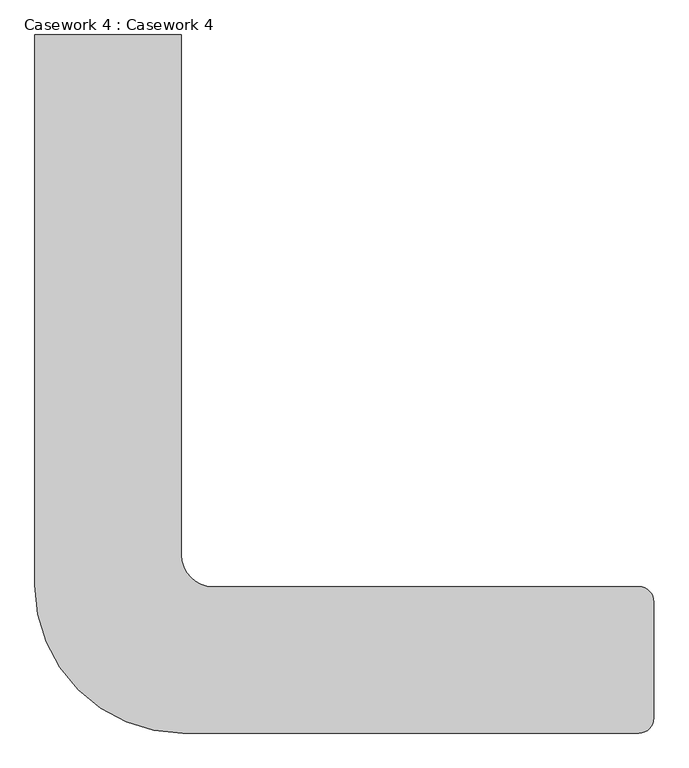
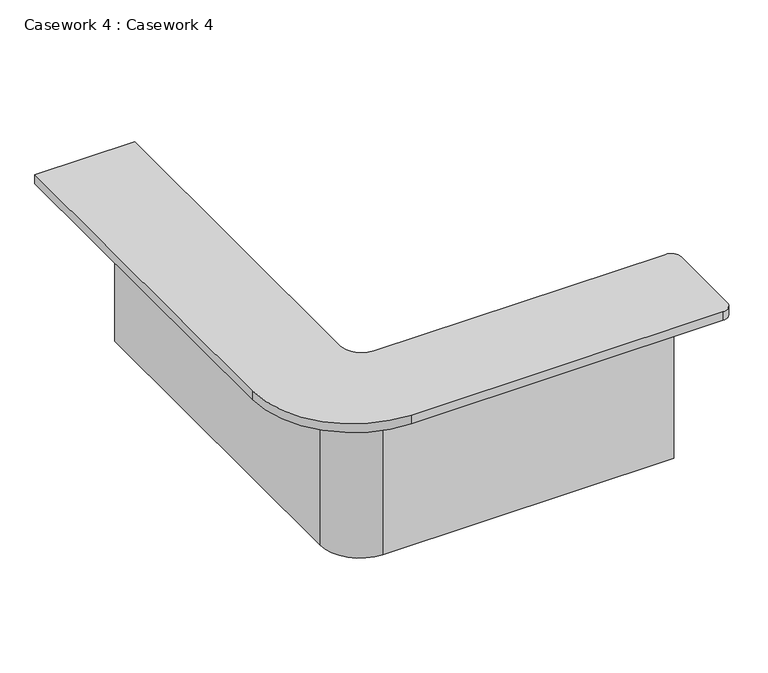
"""IFC4 building model written with IfcOpenShell, lengths in millimetres: furniture geometry, Casework 4 : Casework 4."""

from ifc_helpers import new_model, si_unit, point, frame, frame_2d, origin, place, context, project, spatial, polyline, circle_curve, trimmed, segment, composite_curve, outline, extrude, source, transform, mapped, element, save


def casework_4_casework_4_5319d1b7(model_context):
    return source(origin(), model_context, "Body", "SweptSolid", [
        extrude(outline(composite_curve([segment(polyline([(3468.5234079, 8836.6620874), (3468.5234079, 6882.973476)]), True, "CONTINUOUS"), segment(trimmed(circle_curve(frame_2d((3588.5234079, 6882.973476)), 120.0), [point((3468.5234079, 6882.973476))], [point((3588.5234079, 6762.973476))], True, "CARTESIAN"), True, "CONTINUOUS"), segment(polyline([(3588.5234079, 6762.973476), (5188.365661, 6762.973476), (5188.365661, 6662.973476), (3588.5234079, 6662.973476)]), True, "CONTINUOUS"), segment(trimmed(circle_curve(frame_2d((3588.5234079, 6882.973476)), 220.0), [point((3588.5234079, 6662.973476))], [point((3368.5234079, 6882.973476))], False, "CARTESIAN"), True, "CONTINUOUS"), segment(polyline([(3368.5234079, 6882.973476), (3368.5234079, 8836.6620874), (3468.5234079, 8836.6620874)]), True, "CONTINUOUS")], self_intersect=False)), frame((0.0, 0.0, 6600.0), z_axis=(0.0, 0.0, 1.0), x_axis=(1.0, 0.0, 0.0)), (0.0, 0.0, 1.0), 1050.0),
        extrude(outline(composite_curve([segment(polyline([(2943.5234079, 8861.6620874), (3493.5234079, 8861.6620874), (3493.5234079, 6907.973476)]), True, "CONTINUOUS"), segment(trimmed(circle_curve(frame_2d((3613.5234079, 6907.973476)), 120.0), [point((3493.5234079, 6907.973476))], [point((3613.5234079, 6787.973476))], True, "CARTESIAN"), True, "CONTINUOUS"), segment(polyline([(3613.5234079, 6787.973476), (5213.365661, 6787.973476)]), True, "CONTINUOUS"), segment(trimmed(circle_curve(frame_2d((5213.365661, 6732.1423213)), 55.8311547), [point((5213.365661, 6787.973476))], [point((5269.1968157, 6732.1423213))], False, "CARTESIAN"), True, "CONTINUOUS"), segment(polyline([(5269.1968157, 6732.1423213), (5269.1968157, 6293.8046307)]), True, "CONTINUOUS"), segment(trimmed(circle_curve(frame_2d((5213.365661, 6293.8046307)), 55.8311547), [point((5269.1968157, 6293.8046307))], [point((5213.365661, 6237.973476))], False, "CARTESIAN"), True, "CONTINUOUS"), segment(polyline([(5213.365661, 6237.973476), (3498.7127215, 6237.973476)]), True, "CONTINUOUS"), segment(trimmed(circle_curve(frame_2d((3498.7127215, 6793.1627897)), 555.1893137), [point((3498.7127215, 6237.973476))], [point((2943.5234079, 6793.1627897))], False, "CARTESIAN"), True, "CONTINUOUS"), segment(polyline([(2943.5234079, 6793.1627897), (2943.5234079, 8861.6620874)]), True, "CONTINUOUS")], self_intersect=False)), frame((0.0, 0.0, 7650.0), z_axis=(0.0, 0.0, 1.0), x_axis=(1.0, 0.0, 0.0)), (0.0, 0.0, 1.0), 50.0),
    ])


if __name__ == "__main__":
    model = new_model("IFC4")
    model_context = context("Model", 3, world=origin())
    ifc_project = project(units=[si_unit("LENGTHUNIT", "METRE", prefix="MILLI")], contexts=[model_context])
    site = spatial("IfcSite", under=ifc_project)
    building = spatial("IfcBuilding", under=site)
    placement = place(None, origin())
    casework_4_casework_4_shape = casework_4_casework_4_5319d1b7(model_context)
    element("IfcFurniture", 1, ObjectType="Casework 4 : Casework 4", at=placement, inside=building, context=model_context, shape_type="MappedRepresentation", body=[
        mapped(casework_4_casework_4_shape, transform((0.0, 0.0, 0.0), x_axis=(1.0, 0.0, 0.0), y_axis=(0.0, 1.0, 0.0), z_axis=(0.0, 0.0, 1.0))),
    ])
    save(model, "model.ifc")
